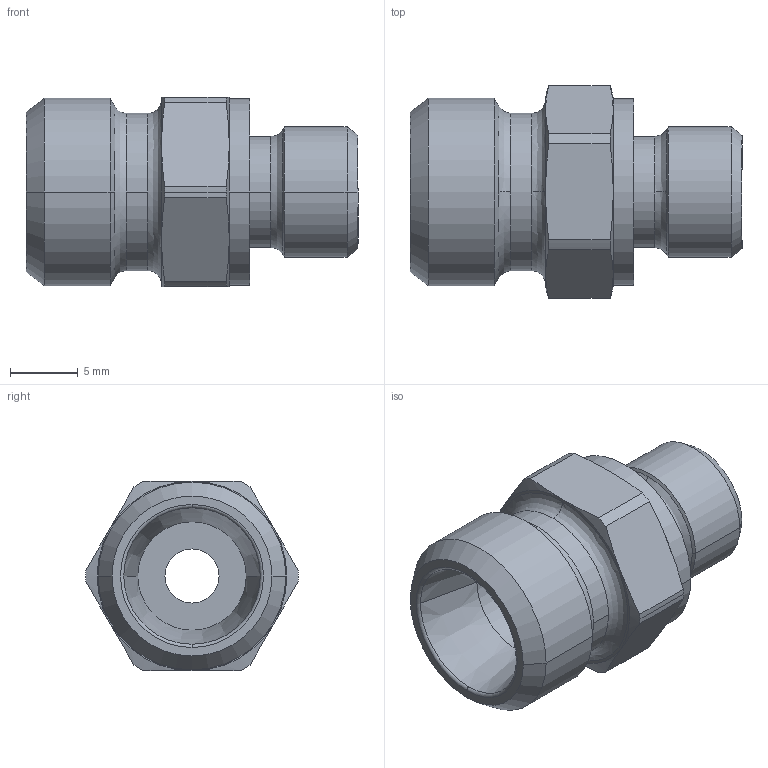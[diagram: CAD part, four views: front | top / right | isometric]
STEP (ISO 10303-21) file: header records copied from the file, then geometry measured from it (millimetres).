
FILE_DESCRIPTION((''),'2;1');
FILE_NAME('100525.stp','2007-10-30T14:36:52',(''),(''),'AutoCAD STEP 2000i','AutoCAD 2000i',', , ');
FILE_SCHEMA(('CONFIG_CONTROL_DESIGN'));
Length unit declared in the file: millimetre
Products named in the file (2): 100525.0; CHIAVE SMUSSATA#0
Assembly tree (1 placements, depth 2):
  100525.0
    CHIAVE SMUSSATA#0
Bounding box: 24.5 x 15.7 x 14 mm (x, y, z)
Volume: 2210.8 mm3; surface area: 1704.5 mm2
Topology: 1 solids, 1 shells, 75 faces, 185 edges, 117 vertices
Faces by surface type: cylinder 24, cone 24, plane 13, bspline 12, torus 2
Entity records: 2835 total; most frequent: CARTESIAN_POINT 955, DIRECTION 410, ORIENTED_EDGE 370, EDGE_CURVE 185, AXIS2_PLACEMENT_3D 184, CIRCLE 119, VERTEX_POINT 117, EDGE_LOOP 82
